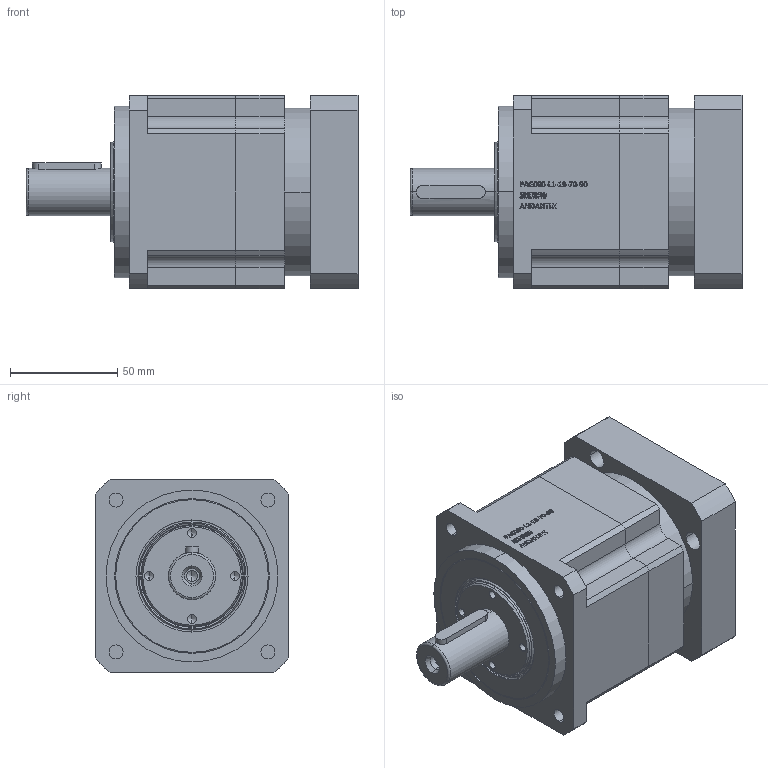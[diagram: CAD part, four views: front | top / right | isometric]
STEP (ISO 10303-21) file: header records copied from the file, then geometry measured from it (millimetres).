
FILE_DESCRIPTION (( 'STEP AP203' ), '1' );
FILE_NAME ('PAG090-L1-19-70-90.STEP', '2022-07-18T07:49:38', ( 'Windows User' ), ( 'P R C' ), 'SwSTEP 2.0', 'SolidWorks 2016', '' );
FILE_SCHEMA (( 'CONFIG_CONTROL_DESIGN' ));
Length unit declared in the file: millimetre
Products named in the file (6): 内六角圆柱头螺钉M6×16; A倰す瑩 6x6x32; PAG090奻裔啣; PAG090-L1-19-70-90; PAG090帣釱19-70-90; 油封範本 TC 72x50x8_TC-34.9-55-7
Assembly tree (5 placements, depth 2):
  PAG090-L1-19-70-90
    PAG090奻裔啣
    PAG090帣釱19-70-90
    油封範本 TC 72x50x8_TC-34.9-55-7
    内六角圆柱头螺钉M6×16
    A倰す瑩 6x6x32
Bounding box: 154.5 x 90 x 90 mm (x, y, z)
Volume: 713043.8 mm3; surface area: 115692.5 mm2
Topology: 5 solids, 5 shells, 829 faces, 2158 edges, 1415 vertices
Faces by surface type: plane 470, bspline 157, cylinder 146, cone 36, torus 20
Entity records: 33412 total; most frequent: CARTESIAN_POINT 13217, ORIENTED_EDGE 4276, DIRECTION 3539, EDGE_CURVE 2138, LINE 1447, VECTOR 1447, VERTEX_POINT 1415, AXIS2_PLACEMENT_3D 1046
